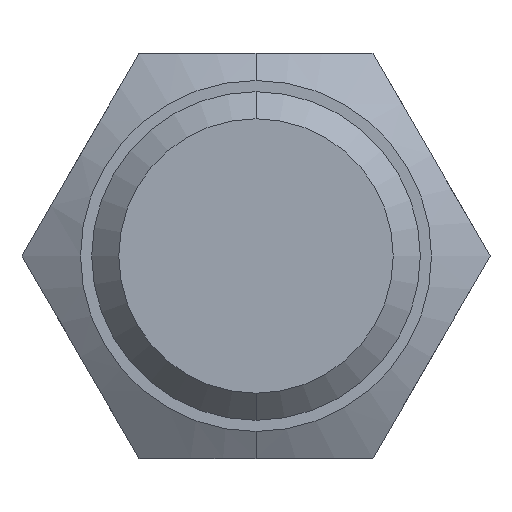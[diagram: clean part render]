
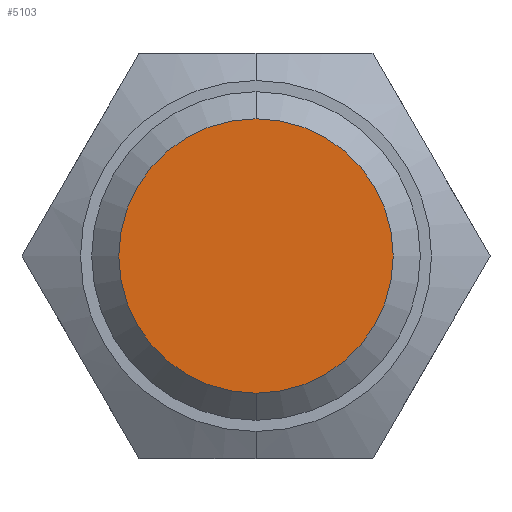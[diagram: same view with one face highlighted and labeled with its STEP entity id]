
A CAD part, front view. The second image highlights one B-rep face of the part: STEP entity #5103.
In plain terms, the highlighted planar face has unit normal (0, -1, 0).
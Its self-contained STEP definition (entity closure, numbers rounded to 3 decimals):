
#995 = AXIS2_PLACEMENT_3D ( 'NONE', #4349, #6282, #5138 ) ;
#1340 = CIRCLE ( 'NONE', #995, 4.064 ) ;
#1583 = VERTEX_POINT ( 'NONE', #5961 ) ;
#1948 = AXIS2_PLACEMENT_3D ( 'NONE', #7467, #2709, #4037 ) ;
#2436 = ORIENTED_EDGE ( 'NONE', *, *, #8855, .T. ) ;
#2471 = DIRECTION ( 'NONE',  ( 0., -1., 0. ) ) ;
#2511 = AXIS2_PLACEMENT_3D ( 'NONE', #5839, #2471, #5811 ) ;
#2709 = DIRECTION ( 'NONE',  ( 0., -1., 0. ) ) ;
#2993 = ORIENTED_EDGE ( 'NONE', *, *, #6184, .T. ) ;
#4037 = DIRECTION ( 'NONE',  ( 0., 0., -1. ) ) ;
#4349 = CARTESIAN_POINT ( 'NONE',  ( 0., -12., 0. ) ) ;
#4878 = CARTESIAN_POINT ( 'NONE',  ( 0., -12., 4.064 ) ) ;
#4882 = VERTEX_POINT ( 'NONE', #4878 ) ;
#5103 = ADVANCED_FACE ( 'NONE', ( #5129 ), #5866, .T. ) ;
#5129 = FACE_OUTER_BOUND ( 'NONE', #7666, .T. ) ;
#5138 = DIRECTION ( 'NONE',  ( 0., 0., -1. ) ) ;
#5811 = DIRECTION ( 'NONE',  ( 0., 0., -1. ) ) ;
#5839 = CARTESIAN_POINT ( 'NONE',  ( 0., -12., 0. ) ) ;
#5866 = PLANE ( 'NONE',  #2511 ) ;
#5961 = CARTESIAN_POINT ( 'NONE',  ( 0., -12., -4.064 ) ) ;
#6184 = EDGE_CURVE ( 'NONE', #4882, #1583, #7308, .T. ) ;
#6282 = DIRECTION ( 'NONE',  ( 0., -1., 0. ) ) ;
#7308 = CIRCLE ( 'NONE', #1948, 4.064 ) ;
#7467 = CARTESIAN_POINT ( 'NONE',  ( 0., -12., 0. ) ) ;
#7666 = EDGE_LOOP ( 'NONE', ( #2993, #2436 ) ) ;
#8855 = EDGE_CURVE ( 'NONE', #1583, #4882, #1340, .T. ) ;
